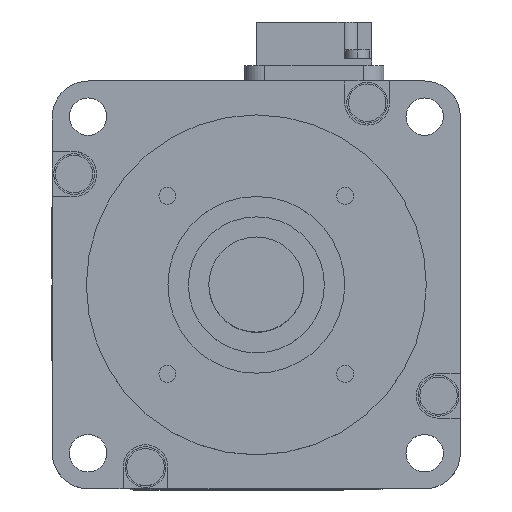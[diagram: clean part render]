
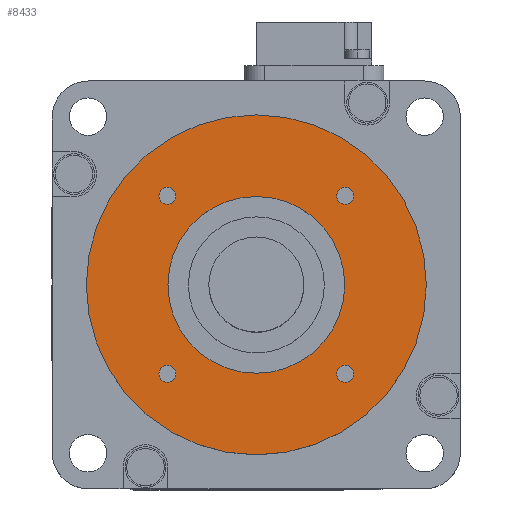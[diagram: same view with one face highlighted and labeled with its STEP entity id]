
A CAD part, top view. The second image highlights one B-rep face of the part: STEP entity #8433.
In plain terms, the highlighted planar face has unit normal (0, 0, 1).
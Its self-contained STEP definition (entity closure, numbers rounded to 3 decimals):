
#1504 = EDGE_CURVE ( 'NONE', #6142, #6117, #9324, .T. ) ;
#1855 = CIRCLE ( 'NONE', #1919, 25. ) ;
#1916 = DIRECTION ( 'NONE',  ( -1., 0., 0. ) ) ;
#1917 = DIRECTION ( 'NONE',  ( 0., 0., -1. ) ) ;
#1918 = CARTESIAN_POINT ( 'NONE',  ( 0., 0., 3. ) ) ;
#1919 = AXIS2_PLACEMENT_3D ( 'NONE', #1918, #1917, #1916 ) ;
#2543 = DIRECTION ( 'NONE',  ( 0., -1., 0. ) ) ;
#2544 = DIRECTION ( 'NONE',  ( 0., 0., 1. ) ) ;
#2545 = CARTESIAN_POINT ( 'NONE',  ( 13.081, -13.081, 3. ) ) ;
#2546 = AXIS2_PLACEMENT_3D ( 'NONE', #2545, #2544, #2543 ) ;
#2547 = CIRCLE ( 'NONE', #2546, 1.25 ) ;
#2551 = DIRECTION ( 'NONE',  ( -1., 0., 0. ) ) ;
#2552 = DIRECTION ( 'NONE',  ( 0., 0., 1. ) ) ;
#2553 = CARTESIAN_POINT ( 'NONE',  ( -13.081, -13.081, 3. ) ) ;
#2554 = AXIS2_PLACEMENT_3D ( 'NONE', #2553, #2552, #2551 ) ;
#2555 = CIRCLE ( 'NONE', #2554, 1.25 ) ;
#2760 = DIRECTION ( 'NONE',  ( 1., 0., 0. ) ) ;
#2761 = DIRECTION ( 'NONE',  ( 0., 0., 1. ) ) ;
#2762 = CARTESIAN_POINT ( 'NONE',  ( 0., 25., 3. ) ) ;
#2763 = AXIS2_PLACEMENT_3D ( 'NONE', #2762, #2761, #2760 ) ;
#2764 = PLANE ( 'NONE',  #2763 ) ;
#2765 = FACE_OUTER_BOUND ( 'NONE', #8491, .T. ) ;
#2766 = FACE_BOUND ( 'NONE', #8526, .T. ) ;
#2767 = FACE_BOUND ( 'NONE', #8551, .T. ) ;
#2768 = FACE_BOUND ( 'NONE', #8251, .T. ) ;
#2769 = FACE_BOUND ( 'NONE', #8305, .T. ) ;
#2770 = FACE_BOUND ( 'NONE', #8650, .T. ) ;
#2909 = DIRECTION ( 'NONE',  ( -1., 0., 0. ) ) ;
#2910 = DIRECTION ( 'NONE',  ( 0., 0., -1. ) ) ;
#2911 = CARTESIAN_POINT ( 'NONE',  ( 0., 0., 3. ) ) ;
#2912 = AXIS2_PLACEMENT_3D ( 'NONE', #2911, #2910, #2909 ) ;
#2913 = CIRCLE ( 'NONE', #2912, 13. ) ;
#2925 = DIRECTION ( 'NONE',  ( 1., 0., 0. ) ) ;
#2926 = DIRECTION ( 'NONE',  ( 0., 0., 1. ) ) ;
#2927 = CARTESIAN_POINT ( 'NONE',  ( 13.081, 13.081, 3. ) ) ;
#2928 = AXIS2_PLACEMENT_3D ( 'NONE', #2927, #2926, #2925 ) ;
#2929 = CIRCLE ( 'NONE', #2928, 1.25 ) ;
#3035 = DIRECTION ( 'NONE',  ( 0., 1., 0. ) ) ;
#3036 = DIRECTION ( 'NONE',  ( 0., 0., 1. ) ) ;
#3037 = CARTESIAN_POINT ( 'NONE',  ( -13.081, 13.081, 3. ) ) ;
#3038 = AXIS2_PLACEMENT_3D ( 'NONE', #3037, #3036, #3035 ) ;
#3039 = CIRCLE ( 'NONE', #3038, 1.25 ) ;
#3520 = CARTESIAN_POINT ( 'NONE',  ( -13., 0., 3. ) ) ;
#3521 = CARTESIAN_POINT ( 'NONE',  ( 13., 0., 3. ) ) ;
#3522 = DIRECTION ( 'NONE',  ( -1., 0., 0. ) ) ;
#3523 = DIRECTION ( 'NONE',  ( 0., 0., -1. ) ) ;
#3524 = CARTESIAN_POINT ( 'NONE',  ( 0., 0., 3. ) ) ;
#3525 = AXIS2_PLACEMENT_3D ( 'NONE', #3524, #3523, #3522 ) ;
#3526 = CIRCLE ( 'NONE', #3525, 13. ) ;
#3573 = CARTESIAN_POINT ( 'NONE',  ( 14.331, 13.081, 3. ) ) ;
#3574 = DIRECTION ( 'NONE',  ( 1., 0., 0. ) ) ;
#3575 = DIRECTION ( 'NONE',  ( 0., 0., 1. ) ) ;
#3576 = CARTESIAN_POINT ( 'NONE',  ( 13.081, 13.081, 3. ) ) ;
#3577 = AXIS2_PLACEMENT_3D ( 'NONE', #3576, #3575, #3574 ) ;
#3578 = CIRCLE ( 'NONE', #3577, 1.25 ) ;
#3579 = CARTESIAN_POINT ( 'NONE',  ( 11.831, 13.081, 3. ) ) ;
#3633 = CARTESIAN_POINT ( 'NONE',  ( -14.331, 13.081, 3. ) ) ;
#3652 = CARTESIAN_POINT ( 'NONE',  ( -11.831, 13.081, 3. ) ) ;
#3734 = DIRECTION ( 'NONE',  ( 0., 1., 0. ) ) ;
#3735 = DIRECTION ( 'NONE',  ( 0., 0., 1. ) ) ;
#3736 = AXIS2_PLACEMENT_3D ( 'NONE', #3742, #3735, #3734 ) ;
#3737 = CIRCLE ( 'NONE', #3736, 1.25 ) ;
#3742 = CARTESIAN_POINT ( 'NONE',  ( -13.081, 13.081, 3. ) ) ;
#3814 = CARTESIAN_POINT ( 'NONE',  ( -11.831, -13.081, 3. ) ) ;
#3815 = DIRECTION ( 'NONE',  ( -1., 0., 0. ) ) ;
#3816 = DIRECTION ( 'NONE',  ( 0., 0., 1. ) ) ;
#3817 = CARTESIAN_POINT ( 'NONE',  ( -13.081, -13.081, 3. ) ) ;
#3818 = AXIS2_PLACEMENT_3D ( 'NONE', #3817, #3816, #3815 ) ;
#3819 = CIRCLE ( 'NONE', #3818, 1.25 ) ;
#3825 = CARTESIAN_POINT ( 'NONE',  ( -14.331, -13.081, 3. ) ) ;
#3862 = DIRECTION ( 'NONE',  ( 0., -1., 0. ) ) ;
#3863 = DIRECTION ( 'NONE',  ( 0., 0., 1. ) ) ;
#3864 = CARTESIAN_POINT ( 'NONE',  ( 13.081, -13.081, 3. ) ) ;
#3865 = AXIS2_PLACEMENT_3D ( 'NONE', #3864, #3863, #3862 ) ;
#3866 = CIRCLE ( 'NONE', #3865, 1.25 ) ;
#3898 = CARTESIAN_POINT ( 'NONE',  ( 14.331, -13.081, 3. ) ) ;
#3899 = CARTESIAN_POINT ( 'NONE',  ( 11.831, -13.081, 3. ) ) ;
#6117 = VERTEX_POINT ( 'NONE', #12618 ) ;
#6142 = VERTEX_POINT ( 'NONE', #12643 ) ;
#7897 = EDGE_CURVE ( 'NONE', #6117, #6142, #1855, .T. ) ;
#8236 = ORIENTED_EDGE ( 'NONE', *, *, #8592, .F. ) ;
#8251 = EDGE_LOOP ( 'NONE', ( #8236, #8573 ) ) ;
#8277 = ORIENTED_EDGE ( 'NONE', *, *, #9023, .F. ) ;
#8300 = ORIENTED_EDGE ( 'NONE', *, *, #8307, .F. ) ;
#8305 = EDGE_LOOP ( 'NONE', ( #8300, #8277 ) ) ;
#8307 = EDGE_CURVE ( 'NONE', #9024, #9020, #2555, .T. ) ;
#8310 = EDGE_CURVE ( 'NONE', #9047, #9045, #2547, .T. ) ;
#8314 = ORIENTED_EDGE ( 'NONE', *, *, #9031, .F. ) ;
#8334 = ORIENTED_EDGE ( 'NONE', *, *, #8310, .F. ) ;
#8433 = ADVANCED_FACE ( 'NONE', ( #2770, #2769, #2768, #2767, #2766, #2765 ), #2764, .T. ) ;
#8481 = ORIENTED_EDGE ( 'NONE', *, *, #7897, .F. ) ;
#8491 = EDGE_LOOP ( 'NONE', ( #8481, #11505 ) ) ;
#8504 = EDGE_CURVE ( 'NONE', #8845, #8844, #2913, .T. ) ;
#8505 = ORIENTED_EDGE ( 'NONE', *, *, #8843, .T. ) ;
#8523 = ORIENTED_EDGE ( 'NONE', *, *, #8504, .T. ) ;
#8526 = EDGE_LOOP ( 'NONE', ( #8523, #8505 ) ) ;
#8535 = ORIENTED_EDGE ( 'NONE', *, *, #8882, .F. ) ;
#8538 = EDGE_CURVE ( 'NONE', #8883, #8880, #2929, .T. ) ;
#8547 = ORIENTED_EDGE ( 'NONE', *, *, #8538, .F. ) ;
#8551 = EDGE_LOOP ( 'NONE', ( #8547, #8535 ) ) ;
#8573 = ORIENTED_EDGE ( 'NONE', *, *, #8962, .F. ) ;
#8592 = EDGE_CURVE ( 'NONE', #8904, #8918, #3039, .T. ) ;
#8650 = EDGE_LOOP ( 'NONE', ( #8334, #8314 ) ) ;
#8843 = EDGE_CURVE ( 'NONE', #8844, #8845, #3526, .T. ) ;
#8844 = VERTEX_POINT ( 'NONE', #3521 ) ;
#8845 = VERTEX_POINT ( 'NONE', #3520 ) ;
#8880 = VERTEX_POINT ( 'NONE', #3579 ) ;
#8882 = EDGE_CURVE ( 'NONE', #8880, #8883, #3578, .T. ) ;
#8883 = VERTEX_POINT ( 'NONE', #3573 ) ;
#8904 = VERTEX_POINT ( 'NONE', #3652 ) ;
#8918 = VERTEX_POINT ( 'NONE', #3633 ) ;
#8962 = EDGE_CURVE ( 'NONE', #8918, #8904, #3737, .T. ) ;
#9020 = VERTEX_POINT ( 'NONE', #3825 ) ;
#9023 = EDGE_CURVE ( 'NONE', #9020, #9024, #3819, .T. ) ;
#9024 = VERTEX_POINT ( 'NONE', #3814 ) ;
#9031 = EDGE_CURVE ( 'NONE', #9045, #9047, #3866, .T. ) ;
#9045 = VERTEX_POINT ( 'NONE', #3899 ) ;
#9047 = VERTEX_POINT ( 'NONE', #3898 ) ;
#9316 = DIRECTION ( 'NONE',  ( -1., 0., 0. ) ) ;
#9317 = DIRECTION ( 'NONE',  ( 0., 0., -1. ) ) ;
#9318 = CARTESIAN_POINT ( 'NONE',  ( 0., 0., 3. ) ) ;
#9319 = AXIS2_PLACEMENT_3D ( 'NONE', #9318, #9317, #9316 ) ;
#9324 = CIRCLE ( 'NONE', #9319, 25. ) ;
#11505 = ORIENTED_EDGE ( 'NONE', *, *, #1504, .F. ) ;
#12618 = CARTESIAN_POINT ( 'NONE',  ( -25., 0., 3. ) ) ;
#12643 = CARTESIAN_POINT ( 'NONE',  ( 25., 0., 3. ) ) ;
